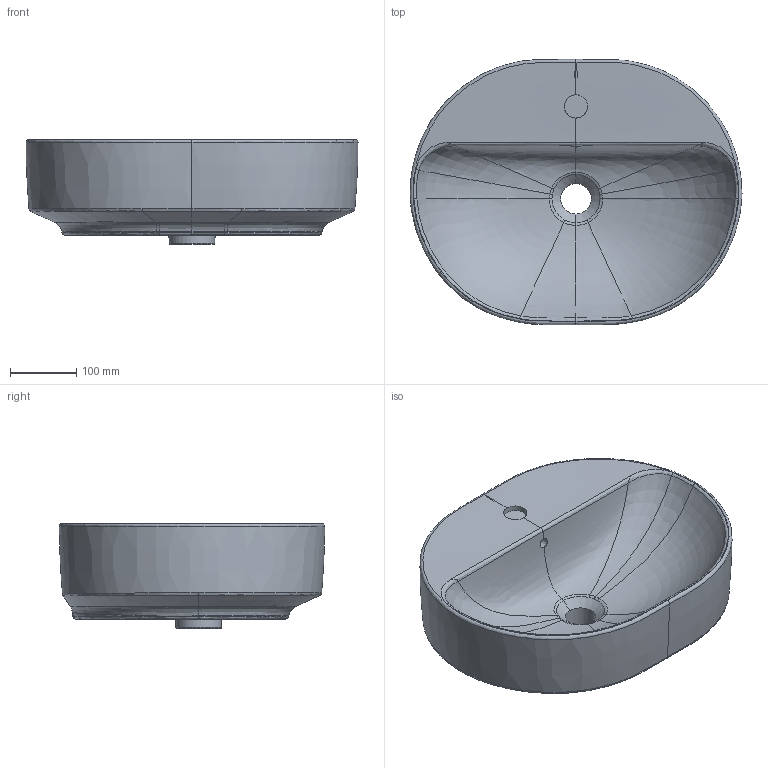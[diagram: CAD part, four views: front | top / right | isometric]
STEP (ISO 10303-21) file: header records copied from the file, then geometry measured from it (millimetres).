
FILE_DESCRIPTION(/* description */ (''),/* implementation_level */ '2;1');
FILE_NAME(/* name */ 'C:\Planerdaten\Export PLA\500.775.01.1\stp\500775.stp',/* time_stamp */ '2020-02-27T11:11:04+01:00',/* author */ ('JANAN'),/* organization */ (''),/* preprocessor_version */ 'ST-DEVELOPER v16.13',/* originating_system */ 'Autodesk Inventor 2018',/* authorisation */ '');
FILE_SCHEMA (('AUTOMOTIVE_DESIGN { 1 0 10303 214 3 1 1 }'));
Products named in the file (1): AWT Ge+VaF ell B50 m/ ÜLF m/ HLo
Bounding box: 500.49 x 400 x 158 mm (x, y, z)
Volume: 14430327.1 mm3; surface area: 557351.6 mm2
Topology: 1 solids, 1 shells, 113 faces, 263 edges, 150 vertices
Faces by surface type: bspline 94, cone 9, plane 6, cylinder 3, torus 1
Full cylindrical faces by diameter (mm): 15 x1, 35 x1, 46 x1
Entity records: 47153 total; most frequent: CARTESIAN_POINT 45003, ORIENTED_EDGE 478, DIRECTION 271, EDGE_CURVE 239, VERTEX_POINT 141, EDGE_LOOP 128, AXIS2_PLACEMENT_3D 123, STYLED_ITEM 114
